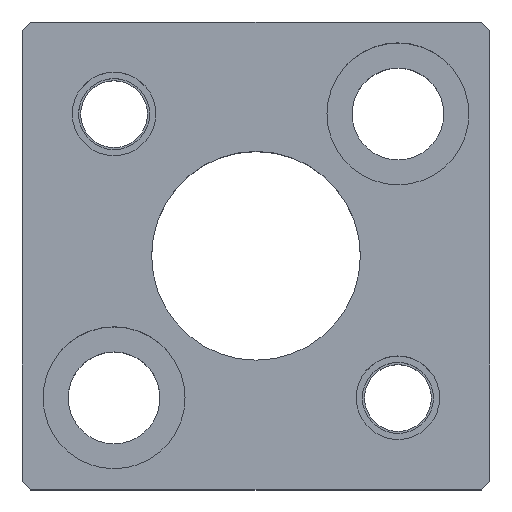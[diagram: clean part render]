
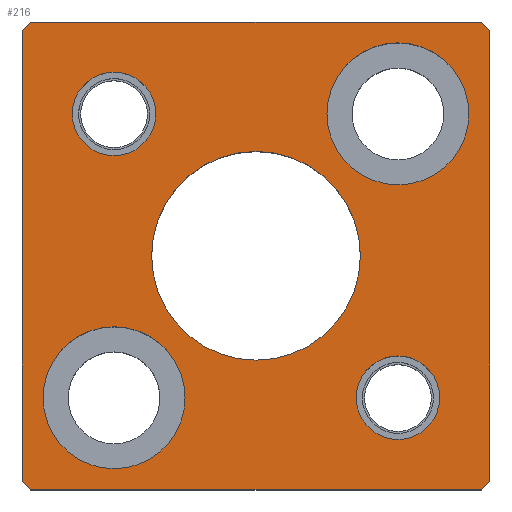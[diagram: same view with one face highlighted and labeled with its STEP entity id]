
A CAD part, top view. The second image highlights one B-rep face of the part: STEP entity #216.
In plain terms, the highlighted planar face has unit normal (0, 0, 1).
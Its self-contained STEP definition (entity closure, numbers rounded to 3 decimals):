
#100=FACE_BOUND('',#324,.T.);
#101=FACE_BOUND('',#325,.T.);
#102=FACE_BOUND('',#326,.T.);
#103=FACE_BOUND('',#327,.T.);
#104=FACE_BOUND('',#328,.T.);
#105=FACE_BOUND('',#329,.T.);
#147=CIRCLE('',#937,5.);
#149=CIRCLE('',#940,5.);
#151=CIRCLE('',#943,5.);
#153=CIRCLE('',#946,5.);
#163=CIRCLE('',#961,8.5);
#164=CIRCLE('',#962,8.5);
#165=CIRCLE('',#963,8.5);
#166=CIRCLE('',#964,8.5);
#167=CIRCLE('',#965,12.5);
#168=CIRCLE('',#966,12.5);
#216=ADVANCED_FACE('',(#100,#101,#102,#103,#104,#105),#255,.T.);
#255=PLANE('',#967);
#324=EDGE_LOOP('',(#459,#460,#461,#462,#463,#464,#465,#466));
#325=EDGE_LOOP('',(#467,#468));
#326=EDGE_LOOP('',(#469,#470));
#327=EDGE_LOOP('',(#471,#472));
#328=EDGE_LOOP('',(#473,#474));
#329=EDGE_LOOP('',(#475,#476));
#459=ORIENTED_EDGE('',*,*,#692,.T.);
#460=ORIENTED_EDGE('',*,*,#689,.T.);
#461=ORIENTED_EDGE('',*,*,#707,.T.);
#462=ORIENTED_EDGE('',*,*,#704,.T.);
#463=ORIENTED_EDGE('',*,*,#701,.T.);
#464=ORIENTED_EDGE('',*,*,#685,.T.);
#465=ORIENTED_EDGE('',*,*,#682,.T.);
#466=ORIENTED_EDGE('',*,*,#678,.T.);
#467=ORIENTED_EDGE('',*,*,#736,.F.);
#468=ORIENTED_EDGE('',*,*,#737,.F.);
#469=ORIENTED_EDGE('',*,*,#738,.F.);
#470=ORIENTED_EDGE('',*,*,#739,.F.);
#471=ORIENTED_EDGE('',*,*,#722,.F.);
#472=ORIENTED_EDGE('',*,*,#718,.F.);
#473=ORIENTED_EDGE('',*,*,#716,.F.);
#474=ORIENTED_EDGE('',*,*,#712,.F.);
#475=ORIENTED_EDGE('',*,*,#740,.T.);
#476=ORIENTED_EDGE('',*,*,#741,.T.);
#601=VERTEX_POINT('',#1286);
#602=VERTEX_POINT('',#1288);
#605=VERTEX_POINT('',#1296);
#607=VERTEX_POINT('',#1302);
#610=VERTEX_POINT('',#1309);
#611=VERTEX_POINT('',#1311);
#618=VERTEX_POINT('',#1334);
#620=VERTEX_POINT('',#1340);
#623=VERTEX_POINT('',#1355);
#624=VERTEX_POINT('',#1356);
#627=VERTEX_POINT('',#1367);
#628=VERTEX_POINT('',#1368);
#639=VERTEX_POINT('',#1403);
#640=VERTEX_POINT('',#1404);
#641=VERTEX_POINT('',#1407);
#642=VERTEX_POINT('',#1408);
#643=VERTEX_POINT('',#1411);
#644=VERTEX_POINT('',#1412);
#678=EDGE_CURVE('',#602,#601,#794,.T.);
#682=EDGE_CURVE('',#605,#602,#798,.T.);
#685=EDGE_CURVE('',#607,#605,#801,.T.);
#689=EDGE_CURVE('',#611,#610,#805,.T.);
#692=EDGE_CURVE('',#601,#611,#808,.T.);
#701=EDGE_CURVE('',#618,#607,#817,.T.);
#704=EDGE_CURVE('',#620,#618,#820,.T.);
#707=EDGE_CURVE('',#610,#620,#823,.T.);
#712=EDGE_CURVE('',#623,#624,#147,.T.);
#716=EDGE_CURVE('',#624,#623,#149,.T.);
#718=EDGE_CURVE('',#627,#628,#151,.T.);
#722=EDGE_CURVE('',#628,#627,#153,.T.);
#736=EDGE_CURVE('',#639,#640,#163,.T.);
#737=EDGE_CURVE('',#640,#639,#164,.T.);
#738=EDGE_CURVE('',#641,#642,#165,.T.);
#739=EDGE_CURVE('',#642,#641,#166,.T.);
#740=EDGE_CURVE('',#643,#644,#167,.T.);
#741=EDGE_CURVE('',#644,#643,#168,.T.);
#794=LINE('',#1287,#860);
#798=LINE('',#1295,#864);
#801=LINE('',#1301,#867);
#805=LINE('',#1310,#871);
#808=LINE('',#1316,#874);
#817=LINE('',#1333,#883);
#820=LINE('',#1339,#886);
#823=LINE('',#1345,#889);
#860=VECTOR('',#1025,1.);
#864=VECTOR('',#1031,1.);
#867=VECTOR('',#1036,1.);
#871=VECTOR('',#1042,1.);
#874=VECTOR('',#1047,1.);
#883=VECTOR('',#1062,1.);
#886=VECTOR('',#1067,1.);
#889=VECTOR('',#1072,1.);
#937=AXIS2_PLACEMENT_3D('',#1354,#1083,#1084);
#940=AXIS2_PLACEMENT_3D('',#1363,#1091,#1092);
#943=AXIS2_PLACEMENT_3D('',#1366,#1097,#1098);
#946=AXIS2_PLACEMENT_3D('',#1375,#1105,#1106);
#961=AXIS2_PLACEMENT_3D('',#1402,#1139,#1140);
#962=AXIS2_PLACEMENT_3D('',#1405,#1141,#1142);
#963=AXIS2_PLACEMENT_3D('',#1406,#1143,#1144);
#964=AXIS2_PLACEMENT_3D('',#1409,#1145,#1146);
#965=AXIS2_PLACEMENT_3D('',#1410,#1147,#1148);
#966=AXIS2_PLACEMENT_3D('',#1413,#1149,#1150);
#967=AXIS2_PLACEMENT_3D('',#1414,#1151,#1152);
#1025=DIRECTION('',(1.,0.,0.));
#1031=DIRECTION('',(0.707,-0.707,0.));
#1036=DIRECTION('',(0.,-1.,0.));
#1042=DIRECTION('',(0.,1.,0.));
#1047=DIRECTION('',(0.707,0.707,0.));
#1062=DIRECTION('',(-0.707,-0.707,0.));
#1067=DIRECTION('',(-1.,0.,0.));
#1072=DIRECTION('',(-0.707,0.707,0.));
#1083=DIRECTION('',(0.,0.,1.));
#1084=DIRECTION('',(-1.,0.,0.));
#1091=DIRECTION('',(0.,0.,1.));
#1092=DIRECTION('',(1.,0.,0.));
#1097=DIRECTION('',(0.,0.,1.));
#1098=DIRECTION('',(-1.,0.,0.));
#1105=DIRECTION('',(0.,0.,1.));
#1106=DIRECTION('',(1.,0.,0.));
#1139=DIRECTION('',(0.,0.,1.));
#1140=DIRECTION('',(1.,0.,0.));
#1141=DIRECTION('',(0.,0.,1.));
#1142=DIRECTION('',(-1.,0.,0.));
#1143=DIRECTION('',(0.,0.,1.));
#1144=DIRECTION('',(1.,0.,0.));
#1145=DIRECTION('',(0.,0.,1.));
#1146=DIRECTION('',(-1.,0.,0.));
#1147=DIRECTION('',(0.,0.,-1.));
#1148=DIRECTION('',(-1.,0.,0.));
#1149=DIRECTION('',(0.,0.,-1.));
#1150=DIRECTION('',(1.,0.,0.));
#1151=DIRECTION('',(0.,0.,1.));
#1152=DIRECTION('',(-1.,0.,0.));
#1286=CARTESIAN_POINT('',(27.,-28.,30.));
#1287=CARTESIAN_POINT('',(-27.,-28.,30.));
#1288=CARTESIAN_POINT('',(-27.,-28.,30.));
#1295=CARTESIAN_POINT('',(-27.,-28.,30.));
#1296=CARTESIAN_POINT('',(-28.,-27.,30.));
#1301=CARTESIAN_POINT('',(-28.,27.,30.));
#1302=CARTESIAN_POINT('',(-28.,27.,30.));
#1309=CARTESIAN_POINT('',(28.,27.,30.));
#1310=CARTESIAN_POINT('',(28.,27.,30.));
#1311=CARTESIAN_POINT('',(28.,-27.,30.));
#1316=CARTESIAN_POINT('',(28.,-27.,30.));
#1333=CARTESIAN_POINT('',(-28.,27.,30.));
#1334=CARTESIAN_POINT('',(-27.,28.,30.));
#1339=CARTESIAN_POINT('',(-27.,28.,30.));
#1340=CARTESIAN_POINT('',(27.,28.,30.));
#1345=CARTESIAN_POINT('',(27.,28.,30.));
#1354=CARTESIAN_POINT('',(17.,-17.,30.));
#1355=CARTESIAN_POINT('',(17.,-22.,30.));
#1356=CARTESIAN_POINT('',(17.,-12.,30.));
#1363=CARTESIAN_POINT('',(17.,-17.,30.));
#1366=CARTESIAN_POINT('',(-17.,17.,30.));
#1367=CARTESIAN_POINT('',(-17.,12.,30.));
#1368=CARTESIAN_POINT('',(-17.,22.,30.));
#1375=CARTESIAN_POINT('',(-17.,17.,30.));
#1402=CARTESIAN_POINT('',(17.,17.,30.));
#1403=CARTESIAN_POINT('',(17.,25.5,30.));
#1404=CARTESIAN_POINT('',(17.,8.5,30.));
#1405=CARTESIAN_POINT('',(17.,17.,30.));
#1406=CARTESIAN_POINT('',(-17.,-17.,30.));
#1407=CARTESIAN_POINT('',(-17.,-8.5,30.));
#1408=CARTESIAN_POINT('',(-17.,-25.5,30.));
#1409=CARTESIAN_POINT('',(-17.,-17.,30.));
#1410=CARTESIAN_POINT('',(0.,0.,30.));
#1411=CARTESIAN_POINT('',(0.,12.5,30.));
#1412=CARTESIAN_POINT('',(0.,-12.5,30.));
#1413=CARTESIAN_POINT('',(0.,0.,30.));
#1414=CARTESIAN_POINT('',(27.,-28.,30.));
